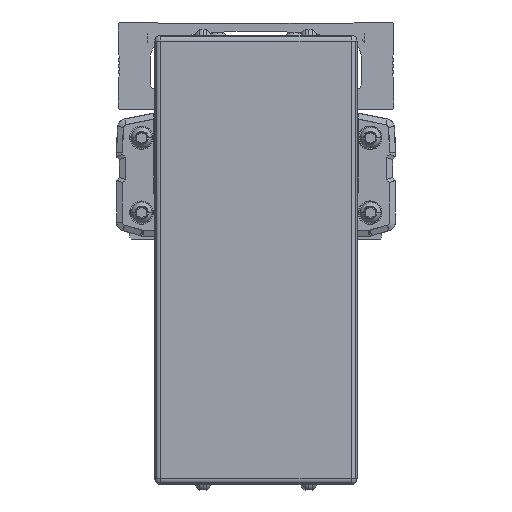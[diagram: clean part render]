
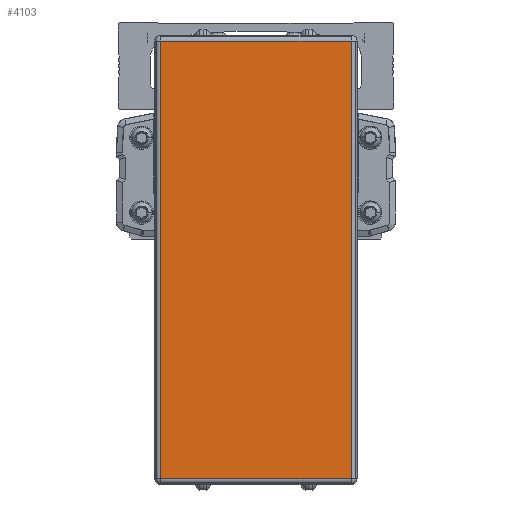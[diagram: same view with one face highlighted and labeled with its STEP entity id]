
A CAD part, front view. The second image highlights one B-rep face of the part: STEP entity #4103.
In plain terms, the highlighted planar face has unit normal (0, -1, 0).
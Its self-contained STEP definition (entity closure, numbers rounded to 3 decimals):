
#4103=ADVANCED_FACE('',(#9454),#9455,.T.);
#9454=FACE_OUTER_BOUND('',#17799,.T.);
#9455=PLANE('',#17800);
#17799=EDGE_LOOP('',(#29191,#29192,#29193,#29194));
#17800=AXIS2_PLACEMENT_3D('',#29195,#29196,#29197);
#29191=ORIENTED_EDGE('',*,*,#44663,.F.);
#29192=ORIENTED_EDGE('',*,*,#44664,.F.);
#29193=ORIENTED_EDGE('',*,*,#44665,.F.);
#29194=ORIENTED_EDGE('',*,*,#44666,.F.);
#29195=CARTESIAN_POINT('',(0.,-389.778,-50.1));
#29196=DIRECTION('',(0.0,-1.0,0.));
#29197=DIRECTION('',(1.0,0.0,0.0));
#44663=EDGE_CURVE('',#54143,#54144,#54145,.T.);
#44664=EDGE_CURVE('',#54146,#54143,#54147,.T.);
#44665=EDGE_CURVE('',#54148,#54146,#54149,.T.);
#44666=EDGE_CURVE('',#54144,#54148,#54150,.T.);
#54143=VERTEX_POINT('',#67946);
#54144=VERTEX_POINT('',#67947);
#54145=LINE('',#67948,#67949);
#54146=VERTEX_POINT('',#67950);
#54147=LINE('',#67951,#67952);
#54148=VERTEX_POINT('',#67953);
#54149=LINE('',#67954,#67955);
#54150=LINE('',#67956,#67957);
#67946=CARTESIAN_POINT('',(32.5,-389.778,24.5));
#67947=CARTESIAN_POINT('',(32.5,-389.778,-124.7));
#67948=CARTESIAN_POINT('',(32.5,-389.778,-50.1));
#67949=VECTOR('',#81437,10.0);
#67950=CARTESIAN_POINT('',(-32.5,-389.778,24.5));
#67951=CARTESIAN_POINT('',(0.,-389.778,24.5));
#67952=VECTOR('',#81438,10.0);
#67953=CARTESIAN_POINT('',(-32.5,-389.778,-124.7));
#67954=CARTESIAN_POINT('',(-32.5,-389.778,-50.1));
#67955=VECTOR('',#81439,10.0);
#67956=CARTESIAN_POINT('',(0.,-389.778,-124.7));
#67957=VECTOR('',#81440,10.0);
#81437=DIRECTION('',(0.0,0.,-1.0));
#81438=DIRECTION('',(1.0,0.0,0.0));
#81439=DIRECTION('',(0.0,0.,1.0));
#81440=DIRECTION('',(-1.0,0.0,0.0));
